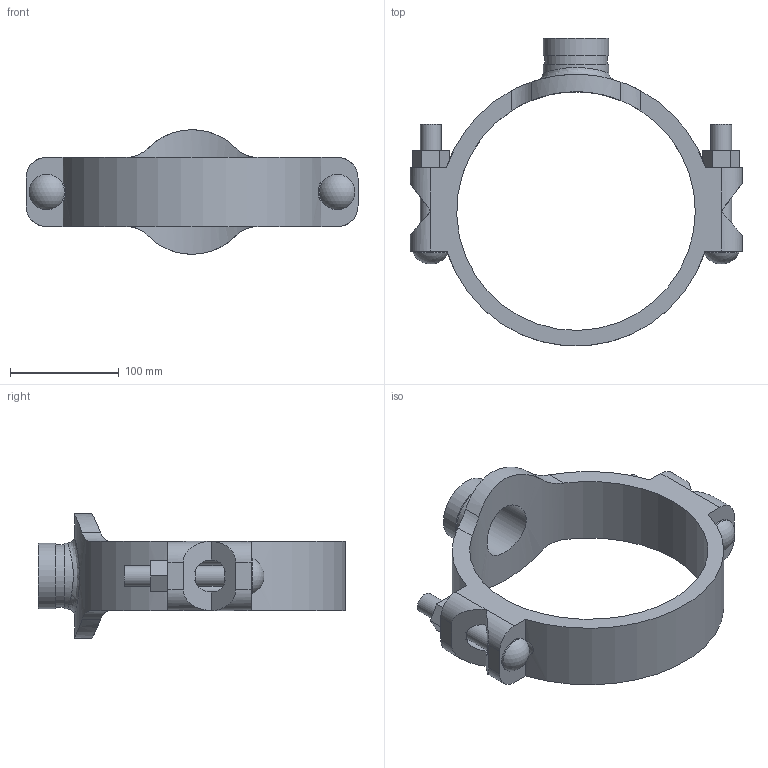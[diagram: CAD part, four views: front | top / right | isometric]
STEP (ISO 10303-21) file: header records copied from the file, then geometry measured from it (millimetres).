
FILE_DESCRIPTION(/* description */ ('VIC SS MECHANICAL T BRANCH OUTLET STYLE 422 (OGS)','CAx-IF Rec.Pracs.---Representation and Presentation of Product Manufacturing Information (PMI)---4.0---2014-10-13'),/* implementation_level */ '2;1');
FILE_NAME(/* name */ 'C:\Files for Export\422\STEP\Victaulic_SS-OGS_Mech-Tee Out_Style 422 (OGS)\Victaulic_SS-OGS_Mech-Tee Out_Style 422 (OGS)_08.0x02.0 (200x50).stp',/* time_stamp */ '2023-03-28T14:00:03+02:00',/* author */ ('jheald'),/* organization */ ('Victaulic'),/* preprocessor_version */ 'ST-DEVELOPER v18.1',/* originating_system */ 'Autodesk Inventor 2020',/* authorisation */ '');
FILE_SCHEMA (('AP242_MANAGED_MODEL_BASED_3D_ENGINEERING_MIM_LF { 1 0 10303 442 1 1 4 }'));
Length unit declared in the file: inch
Products named in the file (1): 422-08.0x02.0
Bounding box: 304.8 x 282.26 x 114.29 mm (x, y, z)
Volume: 997174.4 mm3; surface area: 175925 mm2
Topology: 1 solids, 1 shells, 81 faces, 231 edges, 155 vertices
Faces by surface type: plane 43, cylinder 35, sphere 2, bspline 1
Full cylindrical faces by diameter (mm): 19.05 x4, 32.537 x2, 50.8 x1, 57.15 x1, 60.325 x2, 219.075 x1
Entity records: 3347 total; most frequent: CARTESIAN_POINT 959, DIRECTION 481, ORIENTED_EDGE 462, EDGE_CURVE 231, AXIS2_PLACEMENT_3D 177, VERTEX_POINT 155, LINE 127, VECTOR 127
